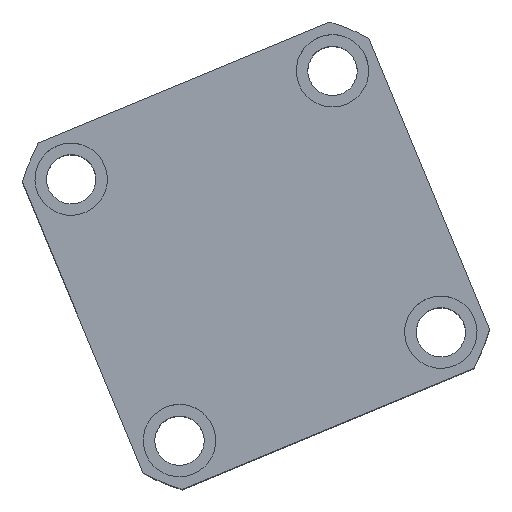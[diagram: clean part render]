
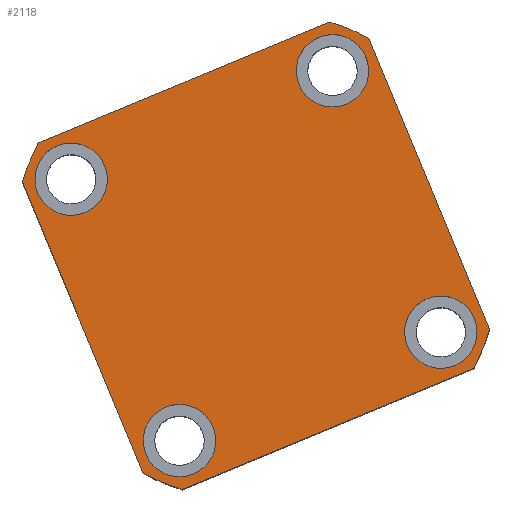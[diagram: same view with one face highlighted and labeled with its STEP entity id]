
A CAD part, top view. The second image highlights one B-rep face of the part: STEP entity #2118.
In plain terms, the highlighted planar face has unit normal (0, 0, 1) as drawn and (0, 0, -1) by its records, which use the part's own axes.
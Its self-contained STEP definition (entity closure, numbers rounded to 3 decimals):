
#124 = CIRCLE ( 'NONE', #9482, 11. ) ;
#294 = EDGE_CURVE ( 'NONE', #5612, #10376, #18555, .T. ) ;
#512 = AXIS2_PLACEMENT_3D ( 'NONE', #9981, #6949, #7286 ) ;
#758 = ORIENTED_EDGE ( 'NONE', *, *, #13975, .F. ) ;
#1218 = CARTESIAN_POINT ( 'NONE',  ( -43., -43., 0. ) ) ;
#1481 = EDGE_CURVE ( 'NONE', #9898, #7664, #6932, .T. ) ;
#1606 = CARTESIAN_POINT ( 'NONE',  ( -32., 43., 0. ) ) ;
#1825 = CARTESIAN_POINT ( 'NONE',  ( 43., -43., 0. ) ) ;
#2118 = ADVANCED_FACE ( 'NONE', ( #7552, #2846, #15424, #19623, #11252 ), #12399, .F. ) ;
#2398 = VERTEX_POINT ( 'NONE', #12601 ) ;
#2474 = ORIENTED_EDGE ( 'NONE', *, *, #294, .F. ) ;
#2806 = DIRECTION ( 'NONE',  ( -1., 0., 0. ) ) ;
#2846 = FACE_BOUND ( 'NONE', #5936, .T. ) ;
#2970 = EDGE_CURVE ( 'NONE', #8147, #16017, #13179, .T. ) ;
#3102 = CARTESIAN_POINT ( 'NONE',  ( 54., -43., 0. ) ) ;
#3395 = DIRECTION ( 'NONE',  ( -1., 0., 0. ) ) ;
#3532 = VERTEX_POINT ( 'NONE', #10665 ) ;
#3544 = EDGE_CURVE ( 'NONE', #10376, #5612, #124, .T. ) ;
#3952 = EDGE_CURVE ( 'NONE', #15299, #14891, #4544, .T. ) ;
#4443 = CIRCLE ( 'NONE', #6859, 11. ) ;
#4544 = CIRCLE ( 'NONE', #16426, 11. ) ;
#4669 = CARTESIAN_POINT ( 'NONE',  ( -57., -57., 0. ) ) ;
#4673 = DIRECTION ( 'NONE',  ( 0., 0., 1. ) ) ;
#4710 = EDGE_LOOP ( 'NONE', ( #13067, #5154 ) ) ;
#4820 = VECTOR ( 'NONE', #12604, 1000. ) ;
#4927 = EDGE_CURVE ( 'NONE', #16017, #6631, #15381, .T. ) ;
#5154 = ORIENTED_EDGE ( 'NONE', *, *, #19599, .F. ) ;
#5217 = CARTESIAN_POINT ( 'NONE',  ( 57., 57., 0. ) ) ;
#5402 = DIRECTION ( 'NONE',  ( 0., 0., 1. ) ) ;
#5433 = ORIENTED_EDGE ( 'NONE', *, *, #7573, .F. ) ;
#5513 = CARTESIAN_POINT ( 'NONE',  ( 57., 47.971, 0. ) ) ;
#5612 = VERTEX_POINT ( 'NONE', #19864 ) ;
#5868 = CIRCLE ( 'NONE', #7627, 11. ) ;
#5902 = CARTESIAN_POINT ( 'NONE',  ( -57., 47.971, 0. ) ) ;
#5936 = EDGE_LOOP ( 'NONE', ( #19252, #19516 ) ) ;
#6038 = CARTESIAN_POINT ( 'NONE',  ( -43., 43., 0. ) ) ;
#6220 = ORIENTED_EDGE ( 'NONE', *, *, #2970, .F. ) ;
#6408 = ORIENTED_EDGE ( 'NONE', *, *, #7558, .F. ) ;
#6628 = ORIENTED_EDGE ( 'NONE', *, *, #17717, .F. ) ;
#6631 = VERTEX_POINT ( 'NONE', #10971 ) ;
#6731 = DIRECTION ( 'NONE',  ( 0., 0., -1. ) ) ;
#6795 = VECTOR ( 'NONE', #10976, 1000. ) ;
#6859 = AXIS2_PLACEMENT_3D ( 'NONE', #18434, #9016, #20029 ) ;
#6932 = CIRCLE ( 'NONE', #12081, 11. ) ;
#6949 = DIRECTION ( 'NONE',  ( 0., 0., -1. ) ) ;
#6981 = DIRECTION ( 'NONE',  ( 0., 0., -1. ) ) ;
#7286 = DIRECTION ( 'NONE',  ( -1., 0., 0. ) ) ;
#7552 = FACE_BOUND ( 'NONE', #14526, .T. ) ;
#7558 = EDGE_CURVE ( 'NONE', #3532, #7680, #16139, .T. ) ;
#7573 = EDGE_CURVE ( 'NONE', #15239, #2398, #19357, .T. ) ;
#7620 = DIRECTION ( 'NONE',  ( -1., 0., 0. ) ) ;
#7627 = AXIS2_PLACEMENT_3D ( 'NONE', #17096, #7677, #18687 ) ;
#7664 = VERTEX_POINT ( 'NONE', #19148 ) ;
#7677 = DIRECTION ( 'NONE',  ( 0., 0., -1. ) ) ;
#7680 = VERTEX_POINT ( 'NONE', #19345 ) ;
#7682 = EDGE_LOOP ( 'NONE', ( #2474, #8284 ) ) ;
#7729 = EDGE_CURVE ( 'NONE', #7680, #13483, #11002, .T. ) ;
#8147 = VERTEX_POINT ( 'NONE', #5902 ) ;
#8243 = CARTESIAN_POINT ( 'NONE',  ( 47.971, 57., 0. ) ) ;
#8284 = ORIENTED_EDGE ( 'NONE', *, *, #3544, .F. ) ;
#8319 = AXIS2_PLACEMENT_3D ( 'NONE', #14834, #5402, #16410 ) ;
#8368 = DIRECTION ( 'NONE',  ( 0., 0., 1. ) ) ;
#8434 = AXIS2_PLACEMENT_3D ( 'NONE', #1825, #12858, #3395 ) ;
#8506 = CARTESIAN_POINT ( 'NONE',  ( 0., 0., 0. ) ) ;
#8633 = ORIENTED_EDGE ( 'NONE', *, *, #7729, .F. ) ;
#8715 = AXIS2_PLACEMENT_3D ( 'NONE', #1218, #12252, #2806 ) ;
#9016 = DIRECTION ( 'NONE',  ( 0., 0., -1. ) ) ;
#9336 = CARTESIAN_POINT ( 'NONE',  ( 32., -43., 0. ) ) ;
#9482 = AXIS2_PLACEMENT_3D ( 'NONE', #6038, #17046, #7620 ) ;
#9633 = ORIENTED_EDGE ( 'NONE', *, *, #14636, .F. ) ;
#9811 = CARTESIAN_POINT ( 'NONE',  ( 32., 43., 0. ) ) ;
#9898 = VERTEX_POINT ( 'NONE', #18870 ) ;
#9981 = CARTESIAN_POINT ( 'NONE',  ( -43., 43., 0. ) ) ;
#9994 = VECTOR ( 'NONE', #14649, 1000. ) ;
#10035 = EDGE_CURVE ( 'NONE', #10310, #19746, #17606, .T. ) ;
#10080 = DIRECTION ( 'NONE',  ( 1., 0., 0. ) ) ;
#10133 = CIRCLE ( 'NONE', #8319, 74.5 ) ;
#10310 = VERTEX_POINT ( 'NONE', #9336 ) ;
#10376 = VERTEX_POINT ( 'NONE', #1606 ) ;
#10665 = CARTESIAN_POINT ( 'NONE',  ( 47.971, -57., 0. ) ) ;
#10971 = CARTESIAN_POINT ( 'NONE',  ( -47.971, -57., 0. ) ) ;
#10976 = DIRECTION ( 'NONE',  ( -1., 0., 0. ) ) ;
#11002 = LINE ( 'NONE', #5217, #9994 ) ;
#11252 = FACE_OUTER_BOUND ( 'NONE', #18706, .T. ) ;
#12081 = AXIS2_PLACEMENT_3D ( 'NONE', #16133, #6731, #17729 ) ;
#12096 = CARTESIAN_POINT ( 'NONE',  ( 54., 43., 0. ) ) ;
#12252 = DIRECTION ( 'NONE',  ( 0., 0., -1. ) ) ;
#12399 = PLANE ( 'NONE',  #16953 ) ;
#12601 = CARTESIAN_POINT ( 'NONE',  ( -47.971, 57., 0. ) ) ;
#12604 = DIRECTION ( 'NONE',  ( 0., -1., 0. ) ) ;
#12619 = CIRCLE ( 'NONE', #8715, 11. ) ;
#12858 = DIRECTION ( 'NONE',  ( 0., 0., -1. ) ) ;
#13067 = ORIENTED_EDGE ( 'NONE', *, *, #3952, .F. ) ;
#13179 = LINE ( 'NONE', #17412, #4820 ) ;
#13483 = VERTEX_POINT ( 'NONE', #5513 ) ;
#13958 = CARTESIAN_POINT ( 'NONE',  ( 0., 0., 0. ) ) ;
#13975 = EDGE_CURVE ( 'NONE', #7664, #9898, #12619, .T. ) ;
#14116 = CARTESIAN_POINT ( 'NONE',  ( 0., 0., 0. ) ) ;
#14526 = EDGE_LOOP ( 'NONE', ( #758, #17754 ) ) ;
#14527 = VECTOR ( 'NONE', #18887, 1000. ) ;
#14636 = EDGE_CURVE ( 'NONE', #2398, #8147, #10133, .T. ) ;
#14649 = DIRECTION ( 'NONE',  ( 0., 1., 0. ) ) ;
#14834 = CARTESIAN_POINT ( 'NONE',  ( 0., 0., 0. ) ) ;
#14891 = VERTEX_POINT ( 'NONE', #12096 ) ;
#14892 = EDGE_CURVE ( 'NONE', #19746, #10310, #4443, .T. ) ;
#15239 = VERTEX_POINT ( 'NONE', #8243 ) ;
#15299 = VERTEX_POINT ( 'NONE', #9811 ) ;
#15381 = CIRCLE ( 'NONE', #15660, 74.5 ) ;
#15424 = FACE_BOUND ( 'NONE', #4710, .T. ) ;
#15548 = DIRECTION ( 'NONE',  ( 1., 0., 0. ) ) ;
#15660 = AXIS2_PLACEMENT_3D ( 'NONE', #17801, #8368, #19379 ) ;
#15690 = DIRECTION ( 'NONE',  ( 1., 0., 0. ) ) ;
#15730 = AXIS2_PLACEMENT_3D ( 'NONE', #8506, #19522, #10080 ) ;
#15794 = ORIENTED_EDGE ( 'NONE', *, *, #16469, .F. ) ;
#16017 = VERTEX_POINT ( 'NONE', #19364 ) ;
#16045 = AXIS2_PLACEMENT_3D ( 'NONE', #14116, #4673, #15690 ) ;
#16133 = CARTESIAN_POINT ( 'NONE',  ( -43., -43., 0. ) ) ;
#16139 = CIRCLE ( 'NONE', #16045, 74.5 ) ;
#16388 = CARTESIAN_POINT ( 'NONE',  ( 43., 43., 0. ) ) ;
#16410 = DIRECTION ( 'NONE',  ( 1., 0., 0. ) ) ;
#16426 = AXIS2_PLACEMENT_3D ( 'NONE', #16388, #6981, #17988 ) ;
#16469 = EDGE_CURVE ( 'NONE', #6631, #3532, #19230, .T. ) ;
#16953 = AXIS2_PLACEMENT_3D ( 'NONE', #13958, #20258, #15548 ) ;
#17046 = DIRECTION ( 'NONE',  ( 0., 0., -1. ) ) ;
#17096 = CARTESIAN_POINT ( 'NONE',  ( 43., 43., 0. ) ) ;
#17294 = CARTESIAN_POINT ( 'NONE',  ( -57., 57., 0. ) ) ;
#17412 = CARTESIAN_POINT ( 'NONE',  ( -57., 57., 0. ) ) ;
#17606 = CIRCLE ( 'NONE', #8434, 11. ) ;
#17717 = EDGE_CURVE ( 'NONE', #13483, #15239, #19696, .T. ) ;
#17729 = DIRECTION ( 'NONE',  ( -1., 0., 0. ) ) ;
#17754 = ORIENTED_EDGE ( 'NONE', *, *, #1481, .F. ) ;
#17801 = CARTESIAN_POINT ( 'NONE',  ( 0., 0., 0. ) ) ;
#17988 = DIRECTION ( 'NONE',  ( -1., 0., 0. ) ) ;
#18434 = CARTESIAN_POINT ( 'NONE',  ( 43., -43., 0. ) ) ;
#18555 = CIRCLE ( 'NONE', #512, 11. ) ;
#18687 = DIRECTION ( 'NONE',  ( -1., 0., 0. ) ) ;
#18706 = EDGE_LOOP ( 'NONE', ( #6628, #8633, #6408, #15794, #19965, #6220, #9633, #5433 ) ) ;
#18870 = CARTESIAN_POINT ( 'NONE',  ( -32., -43., 0. ) ) ;
#18887 = DIRECTION ( 'NONE',  ( 1., 0., 0. ) ) ;
#19148 = CARTESIAN_POINT ( 'NONE',  ( -54., -43., 0. ) ) ;
#19230 = LINE ( 'NONE', #4669, #14527 ) ;
#19252 = ORIENTED_EDGE ( 'NONE', *, *, #10035, .F. ) ;
#19345 = CARTESIAN_POINT ( 'NONE',  ( 57., -47.971, 0. ) ) ;
#19357 = LINE ( 'NONE', #17294, #6795 ) ;
#19364 = CARTESIAN_POINT ( 'NONE',  ( -57., -47.971, 0. ) ) ;
#19379 = DIRECTION ( 'NONE',  ( 1., 0., 0. ) ) ;
#19516 = ORIENTED_EDGE ( 'NONE', *, *, #14892, .F. ) ;
#19522 = DIRECTION ( 'NONE',  ( 0., 0., 1. ) ) ;
#19599 = EDGE_CURVE ( 'NONE', #14891, #15299, #5868, .T. ) ;
#19623 = FACE_BOUND ( 'NONE', #7682, .T. ) ;
#19696 = CIRCLE ( 'NONE', #15730, 74.5 ) ;
#19746 = VERTEX_POINT ( 'NONE', #3102 ) ;
#19864 = CARTESIAN_POINT ( 'NONE',  ( -54., 43., 0. ) ) ;
#19965 = ORIENTED_EDGE ( 'NONE', *, *, #4927, .F. ) ;
#20029 = DIRECTION ( 'NONE',  ( -1., 0., 0. ) ) ;
#20258 = DIRECTION ( 'NONE',  ( 0., 0., 1. ) ) ;
